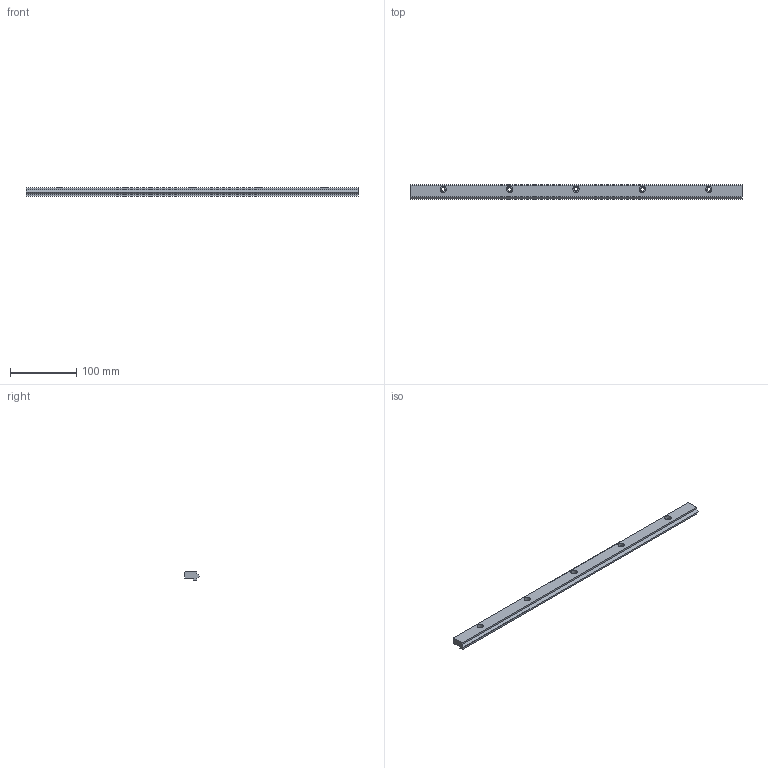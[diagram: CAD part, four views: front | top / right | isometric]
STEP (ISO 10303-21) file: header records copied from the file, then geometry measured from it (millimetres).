
FILE_DESCRIPTION((''),'2;1');
FILE_NAME('D:\製品 (図面)\カタログ用3D\リニアガイド関連\STEP形式\HALFR\HALFR22.stp','2010-06-02T15:47:50',('Tsuchiya'),(''),'Autodesk Inventor 10','Autodesk Inventor 10','');
FILE_SCHEMA(('AUTOMOTIVE_DESIGN { 1 0 10303 214 1 1 1 1 }'));
Length unit declared in the file: millimetre
Products named in the file (1): HALFR22
Bounding box: 500 x 22 x 12.5 mm (x, y, z)
Volume: 102750.2 mm3; surface area: 34115.1 mm2
Topology: 1 solids, 1 shells, 32 faces, 75 edges, 50 vertices
Faces by surface type: plane 17, bspline 15
Entity records: 1042 total; most frequent: CARTESIAN_POINT 333, ORIENTED_EDGE 130, DIRECTION 121, EDGE_CURVE 65, EDGE_LOOP 57, VERTEX_POINT 50, VECTOR 45, LINE 45
